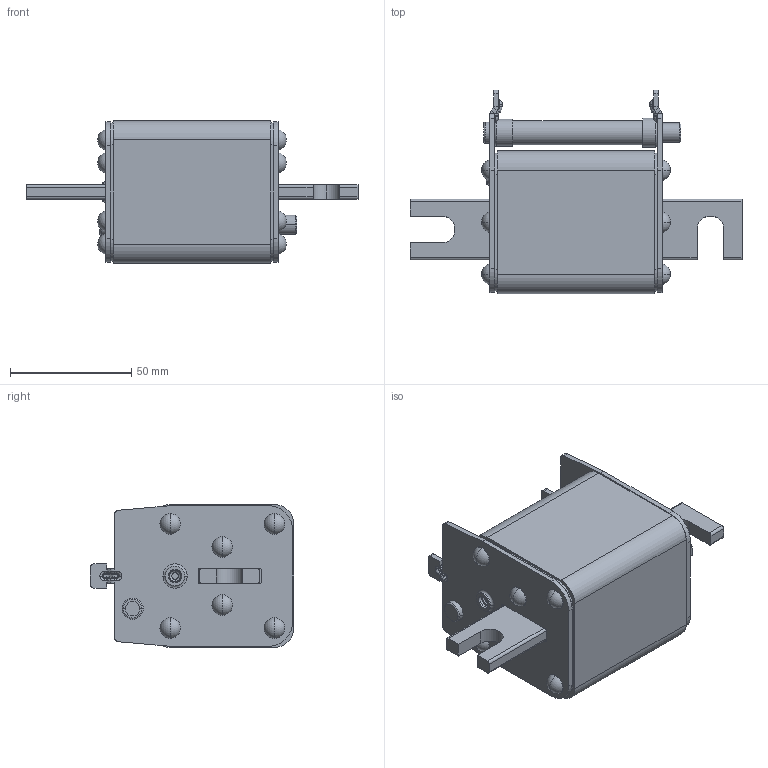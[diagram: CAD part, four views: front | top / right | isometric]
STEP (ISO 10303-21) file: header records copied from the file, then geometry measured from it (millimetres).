
FILE_DESCRIPTION (( 'STEP AP214' ), '1' );
FILE_NAME ('ﾏﾍﾁ7-690_400-3-XXXX-XXXX-ﾊﾝﾀﾇ.STEP', '2023-06-01T11:24:46', ( '' ), ( '' ), 'SwSTEP 2.0', 'SolidWorks 2018', '' );
FILE_SCHEMA (( 'AUTOMOTIVE_DESIGN' ));
Length unit declared in the file: millimetre
Products named in the file (1): ﾏﾍﾁ7-690_400-3-XXXX-XXXX-ﾊﾝﾀﾇ
Bounding box: 137 x 84 x 59 mm (x, y, z)
Volume: 258903.9 mm3; surface area: 38509.8 mm2
Topology: 1 solids, 18 shells, 550 faces, 1225 edges, 742 vertices
Faces by surface type: cylinder 227, plane 149, torus 106, cone 32, sphere 28, bspline 8
Entity records: 21503 total; most frequent: DIRECTION 3003, CARTESIAN_POINT 2678, ORIENTED_EDGE 2450, AXIS2_PLACEMENT_3D 1251, EDGE_CURVE 1225, VERTEX_POINT 742, CIRCLE 708, EDGE_LOOP 607
